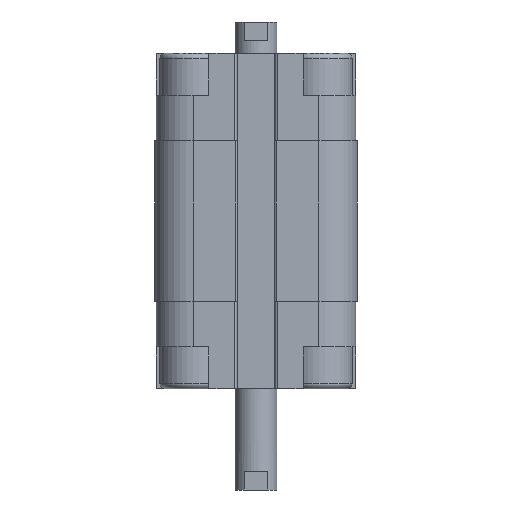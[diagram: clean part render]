
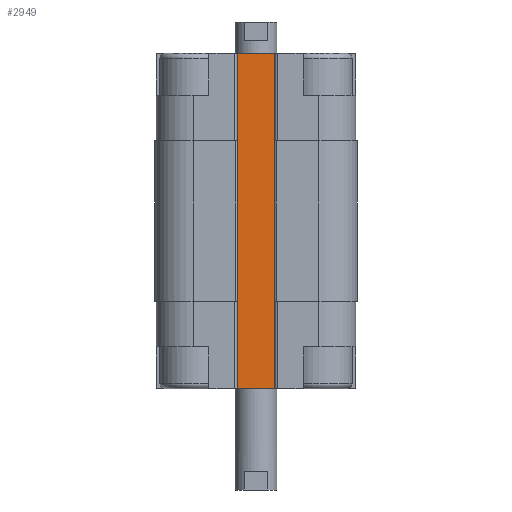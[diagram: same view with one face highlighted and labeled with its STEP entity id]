
A CAD part, front view. The second image highlights one B-rep face of the part: STEP entity #2949.
In plain terms, the highlighted planar face has unit normal (0, -1, 0).
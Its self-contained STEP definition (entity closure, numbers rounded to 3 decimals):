
#45 = CARTESIAN_POINT ( 'NONE',  ( -3.2, -9.5, -12.5 ) ) ;
#53 = CARTESIAN_POINT ( 'NONE',  ( 9., -9.5, -12.5 ) ) ;
#236 = ORIENTED_EDGE ( 'NONE', *, *, #17502, .T. ) ;
#294 = LINE ( 'NONE', #2079, #7345 ) ;
#326 = ORIENTED_EDGE ( 'NONE', *, *, #5114, .F. ) ;
#831 = VERTEX_POINT ( 'NONE', #11825 ) ;
#875 = ORIENTED_EDGE ( 'NONE', *, *, #8673, .F. ) ;
#1165 = CARTESIAN_POINT ( 'NONE',  ( -3.2, -9.5, -35.5 ) ) ;
#1280 = VERTEX_POINT ( 'NONE', #17205 ) ;
#1466 = CARTESIAN_POINT ( 'NONE',  ( -3., -9.5, -35.5 ) ) ;
#1590 = DIRECTION ( 'NONE',  ( 1., 0., 0. ) ) ;
#1604 = EDGE_CURVE ( 'NONE', #10833, #831, #7975, .T. ) ;
#1747 = VERTEX_POINT ( 'NONE', #8755 ) ;
#2079 = CARTESIAN_POINT ( 'NONE',  ( -3., -9.5, -48. ) ) ;
#2307 = CARTESIAN_POINT ( 'NONE',  ( 3.2, -9.5, -35.5 ) ) ;
#2377 = LINE ( 'NONE', #8924, #13764 ) ;
#2522 = DIRECTION ( 'NONE',  ( -1., 0., 0. ) ) ;
#2727 = EDGE_CURVE ( 'NONE', #7089, #9327, #6862, .T. ) ;
#2886 = CARTESIAN_POINT ( 'NONE',  ( 3.2, -9.5, -12.5 ) ) ;
#2922 = LINE ( 'NONE', #13702, #11673 ) ;
#2928 = EDGE_CURVE ( 'NONE', #9327, #1747, #6555, .T. ) ;
#2949 = ADVANCED_FACE ( 'NONE', ( #12048 ), #6730, .T. ) ;
#3010 = VECTOR ( 'NONE', #13482, 1000. ) ;
#3224 = CARTESIAN_POINT ( 'NONE',  ( -3., -9.5, -48. ) ) ;
#3866 = ORIENTED_EDGE ( 'NONE', *, *, #5001, .T. ) ;
#4742 = DIRECTION ( 'NONE',  ( 1., 0., 0. ) ) ;
#5001 = EDGE_CURVE ( 'NONE', #831, #9585, #12173, .T. ) ;
#5099 = VECTOR ( 'NONE', #1590, 1000. ) ;
#5114 = EDGE_CURVE ( 'NONE', #6523, #7089, #2922, .T. ) ;
#5289 = VECTOR ( 'NONE', #11378, 1000. ) ;
#5604 = ORIENTED_EDGE ( 'NONE', *, *, #2727, .F. ) ;
#5625 = DIRECTION ( 'NONE',  ( 0., 0., 1. ) ) ;
#6089 = LINE ( 'NONE', #11568, #16721 ) ;
#6344 = ORIENTED_EDGE ( 'NONE', *, *, #15881, .T. ) ;
#6346 = ORIENTED_EDGE ( 'NONE', *, *, #9776, .F. ) ;
#6433 = AXIS2_PLACEMENT_3D ( 'NONE', #16260, #17612, #2522 ) ;
#6508 = CARTESIAN_POINT ( 'NONE',  ( -3., -9.5, -12.5 ) ) ;
#6523 = VERTEX_POINT ( 'NONE', #16293 ) ;
#6555 = LINE ( 'NONE', #16351, #3010 ) ;
#6730 = PLANE ( 'NONE',  #6433 ) ;
#6862 = LINE ( 'NONE', #45, #9884 ) ;
#6879 = VECTOR ( 'NONE', #9404, 1000. ) ;
#7089 = VERTEX_POINT ( 'NONE', #17069 ) ;
#7345 = VECTOR ( 'NONE', #8710, 1000. ) ;
#7353 = VECTOR ( 'NONE', #7946, 1000. ) ;
#7716 = EDGE_CURVE ( 'NONE', #11540, #9585, #17664, .T. ) ;
#7853 = ORIENTED_EDGE ( 'NONE', *, *, #1604, .T. ) ;
#7946 = DIRECTION ( 'NONE',  ( 0., 0., 1. ) ) ;
#7975 = LINE ( 'NONE', #1165, #6879 ) ;
#8130 = CARTESIAN_POINT ( 'NONE',  ( 3., -9.5, -48. ) ) ;
#8398 = CARTESIAN_POINT ( 'NONE',  ( -3.2, -9.5, -35.5 ) ) ;
#8673 = EDGE_CURVE ( 'NONE', #1747, #1280, #6089, .T. ) ;
#8710 = DIRECTION ( 'NONE',  ( 1., 0., 0. ) ) ;
#8755 = CARTESIAN_POINT ( 'NONE',  ( -3., -9.5, 0. ) ) ;
#8924 = CARTESIAN_POINT ( 'NONE',  ( 3., -9.5, -12.5 ) ) ;
#8946 = ORIENTED_EDGE ( 'NONE', *, *, #11797, .T. ) ;
#9161 = VECTOR ( 'NONE', #14065, 1000. ) ;
#9327 = VERTEX_POINT ( 'NONE', #6508 ) ;
#9404 = DIRECTION ( 'NONE',  ( 1., 0., 0. ) ) ;
#9574 = ORIENTED_EDGE ( 'NONE', *, *, #2928, .F. ) ;
#9585 = VERTEX_POINT ( 'NONE', #2886 ) ;
#9776 = EDGE_CURVE ( 'NONE', #16680, #11656, #12550, .T. ) ;
#9884 = VECTOR ( 'NONE', #14950, 1000. ) ;
#10259 = ORIENTED_EDGE ( 'NONE', *, *, #7716, .F. ) ;
#10833 = VERTEX_POINT ( 'NONE', #13479 ) ;
#11378 = DIRECTION ( 'NONE',  ( 0., 0., 1. ) ) ;
#11540 = VERTEX_POINT ( 'NONE', #11887 ) ;
#11568 = CARTESIAN_POINT ( 'NONE',  ( -3., -9.5, 0. ) ) ;
#11656 = VERTEX_POINT ( 'NONE', #1466 ) ;
#11673 = VECTOR ( 'NONE', #5625, 1000. ) ;
#11797 = EDGE_CURVE ( 'NONE', #16680, #17465, #294, .T. ) ;
#11825 = CARTESIAN_POINT ( 'NONE',  ( 3.2, -9.5, -35.5 ) ) ;
#11887 = CARTESIAN_POINT ( 'NONE',  ( 3., -9.5, -12.5 ) ) ;
#12048 = FACE_OUTER_BOUND ( 'NONE', #12471, .T. ) ;
#12173 = LINE ( 'NONE', #2307, #7353 ) ;
#12451 = LINE ( 'NONE', #8398, #5099 ) ;
#12471 = EDGE_LOOP ( 'NONE', ( #875, #9574, #5604, #326, #6344, #6346, #8946, #236, #7853, #3866, #10259, #14120 ) ) ;
#12550 = LINE ( 'NONE', #16682, #5289 ) ;
#13449 = DIRECTION ( 'NONE',  ( 1., 0., 0. ) ) ;
#13479 = CARTESIAN_POINT ( 'NONE',  ( 3., -9.5, -35.5 ) ) ;
#13482 = DIRECTION ( 'NONE',  ( 0., 0., 1. ) ) ;
#13579 = VECTOR ( 'NONE', #13449, 1000. ) ;
#13702 = CARTESIAN_POINT ( 'NONE',  ( -3.2, -9.5, -35.5 ) ) ;
#13764 = VECTOR ( 'NONE', #17118, 1000. ) ;
#14065 = DIRECTION ( 'NONE',  ( 0., 0., 1. ) ) ;
#14120 = ORIENTED_EDGE ( 'NONE', *, *, #17652, .T. ) ;
#14950 = DIRECTION ( 'NONE',  ( 1., 0., 0. ) ) ;
#14961 = LINE ( 'NONE', #8130, #9161 ) ;
#15141 = CARTESIAN_POINT ( 'NONE',  ( 3., -9.5, -48. ) ) ;
#15881 = EDGE_CURVE ( 'NONE', #6523, #11656, #12451, .T. ) ;
#16260 = CARTESIAN_POINT ( 'NONE',  ( -3., -9.5, -12.5 ) ) ;
#16293 = CARTESIAN_POINT ( 'NONE',  ( -3.2, -9.5, -35.5 ) ) ;
#16351 = CARTESIAN_POINT ( 'NONE',  ( -3., -9.5, -12.5 ) ) ;
#16680 = VERTEX_POINT ( 'NONE', #3224 ) ;
#16682 = CARTESIAN_POINT ( 'NONE',  ( -3., -9.5, -48. ) ) ;
#16721 = VECTOR ( 'NONE', #4742, 1000. ) ;
#17069 = CARTESIAN_POINT ( 'NONE',  ( -3.2, -9.5, -12.5 ) ) ;
#17118 = DIRECTION ( 'NONE',  ( 0., 0., 1. ) ) ;
#17205 = CARTESIAN_POINT ( 'NONE',  ( 3., -9.5, 0. ) ) ;
#17465 = VERTEX_POINT ( 'NONE', #15141 ) ;
#17502 = EDGE_CURVE ( 'NONE', #17465, #10833, #14961, .T. ) ;
#17612 = DIRECTION ( 'NONE',  ( 0., -1., 0. ) ) ;
#17652 = EDGE_CURVE ( 'NONE', #11540, #1280, #2377, .T. ) ;
#17664 = LINE ( 'NONE', #53, #13579 ) ;
